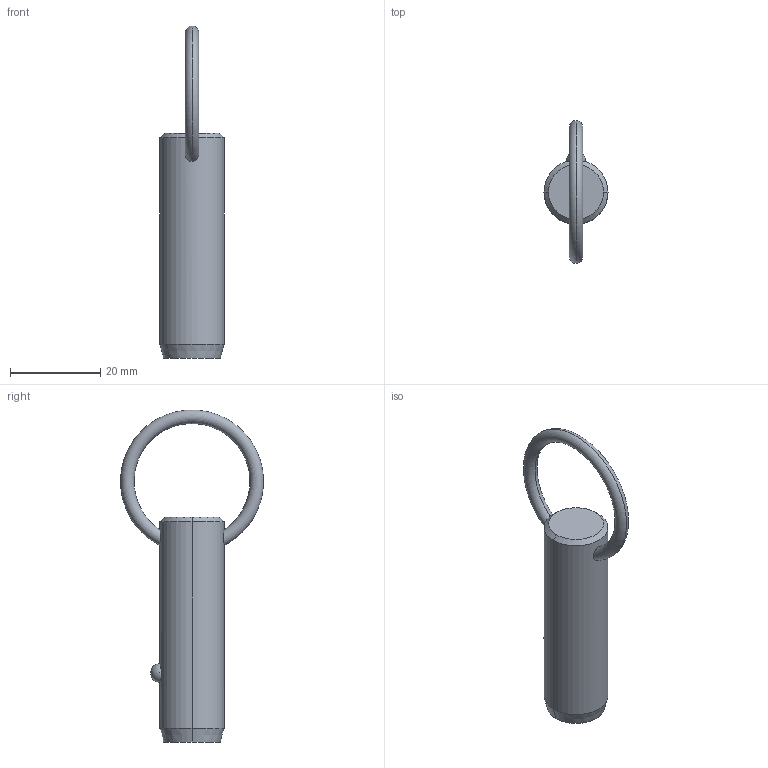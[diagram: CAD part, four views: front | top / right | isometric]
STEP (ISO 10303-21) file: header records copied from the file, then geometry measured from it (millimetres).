
FILE_DESCRIPTION (( 'STEP AP203' ), '1' );
FILE_NAME ('P1250.043-350.step', '2019-07-29T20:21:50', ( '' ), ( '' ), 'SwSTEP 2.0', 'SolidWorks 2017', '' );
FILE_SCHEMA (( 'CONFIG_CONTROL_DESIGN' ));
Length unit declared in the file: millimetre
Products named in the file (1): P1250.043-350
Bounding box: 14.2 x 31.65 x 73.58 mm (x, y, z)
Volume: 8370.3 mm3; surface area: 3185.7 mm2
Topology: 1 solids, 1 shells, 12 faces, 28 edges, 17 vertices
Faces by surface type: cone 4, torus 2, sphere 2, cylinder 2, plane 2
Entity records: 539 total; most frequent: CARTESIAN_POINT 206, DIRECTION 56, ORIENTED_EDGE 48, AXIS2_PLACEMENT_3D 25, EDGE_CURVE 24, EDGE_LOOP 15, VERTEX_POINT 15, CIRCLE 12
